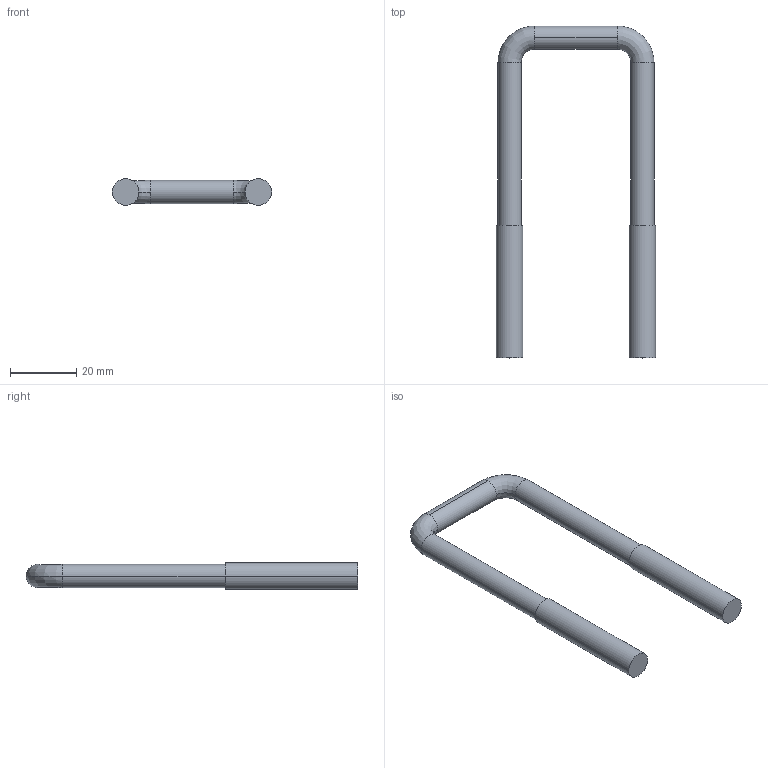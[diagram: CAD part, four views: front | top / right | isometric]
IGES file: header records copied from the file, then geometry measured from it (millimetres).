
Start section: 3D InterOp IGES (v. 2019 1.0.2), Spatial Corp. Copyright (c) 1999-2017.
Global section: file name: AU10040M8EQ.igs; native system: Spatial Corp.; preprocessor: 3D InterOp GENERIC/IGES 3.0; author: Noname; organization: Noname; date: 20210211.095101; units: millimetre
Bounding box: 48 x 100 x 8 mm (x, y, z)
Surface area: 5357.8 mm2 (no closed solid volume)
Topology: 0 solids, 0 shells, 18 faces, 76 edges, 76 vertices
Faces by surface type: revolution 14, extrusion 4
